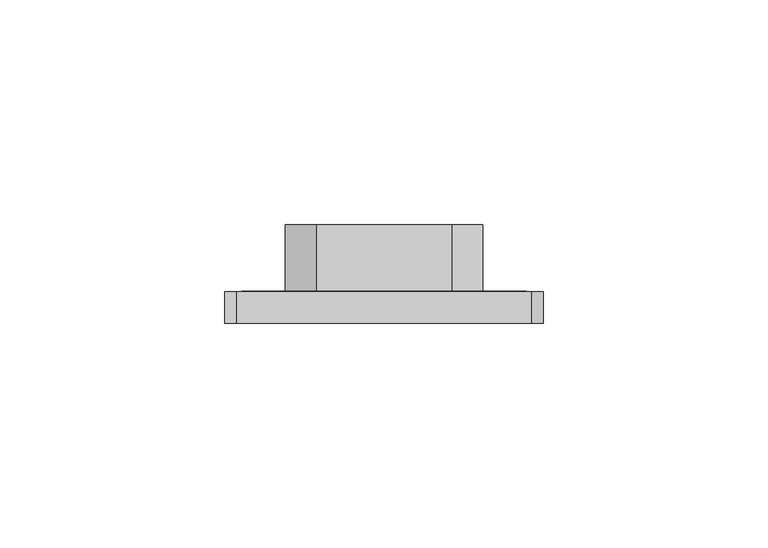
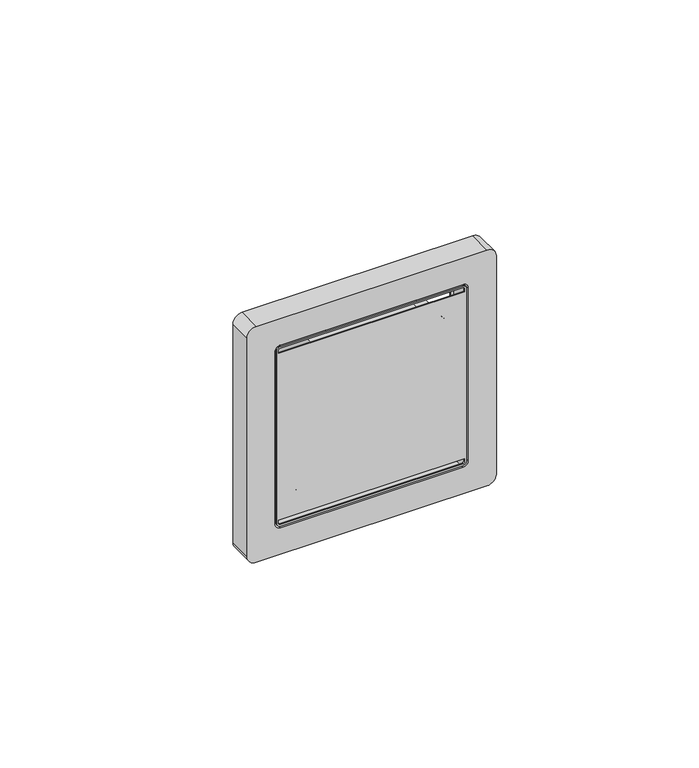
"""IFC4 building model written with IfcOpenShell, lengths in millimetres: proxy geometry, Cala KNX T 201-202 : Cala KNX T 201 Sunblind, schwarz RAL 9005."""

from ifc_helpers import new_model, si_unit, point, frame, frame_2d, origin, place, context, project, spatial, polyline, circle_curve, trimmed, segment, composite_curve, outline, extrude, source, transform, mapped, element, save


def electrical_fixtures_7aa441e9(model_context):
    return source(origin(), model_context, "Body", "SweptSolid", [
        extrude(outline(composite_curve([segment(trimmed(circle_curve(frame_2d((68.3993065, -32.8993065)), 2.6006935), [point((71.0, -32.8993065))], [point((68.3993065, -35.5))], False, "CARTESIAN"), True, "CONTINUOUS"), segment(polyline([(68.3993065, -35.5), (2.6006935, -35.5)]), True, "CONTINUOUS"), segment(trimmed(circle_curve(frame_2d((2.6006935, -32.8993065)), 2.6006935), [point((2.6006935, -35.5))], [point((0.0, -32.8993065))], False, "CARTESIAN"), True, "CONTINUOUS"), segment(polyline([(0.0, -32.8993065), (0.0, 32.8993065)]), True, "CONTINUOUS"), segment(trimmed(circle_curve(frame_2d((2.6006935, 32.8993065)), 2.6006935), [point((0.0, 32.8993065))], [point((2.6006935, 35.5))], False, "CARTESIAN"), True, "CONTINUOUS"), segment(polyline([(2.6006935, 35.5), (68.3993065, 35.5)]), True, "CONTINUOUS"), segment(trimmed(circle_curve(frame_2d((68.3993065, 32.8993065)), 2.6006935), [point((68.3993065, 35.5))], [point((71.0, 32.8993065))], False, "CARTESIAN"), True, "CONTINUOUS"), segment(polyline([(71.0, 32.8993065), (71.0, -32.8993065)]), True, "CONTINUOUS")], self_intersect=False), holes=[composite_curve([segment(polyline([(63.0, -25.9768966), (63.0, 25.9768966)]), True, "CONTINUOUS"), segment(trimmed(circle_curve(frame_2d((61.4768966, 25.9768966)), 1.5231034), [point((63.0, 25.9768966))], [point((61.4768966, 27.5))], True, "CARTESIAN"), True, "CONTINUOUS"), segment(polyline([(61.4768966, 27.5), (9.5231034, 27.5)]), True, "CONTINUOUS"), segment(trimmed(circle_curve(frame_2d((9.5231034, 25.9768966)), 1.5231034), [point((9.5231034, 27.5))], [point((8.0, 25.9768966))], True, "CARTESIAN"), True, "CONTINUOUS"), segment(polyline([(8.0, 25.9768966), (8.0, -25.9768966)]), True, "CONTINUOUS"), segment(trimmed(circle_curve(frame_2d((9.5231034, -25.9768966)), 1.5231034), [point((8.0, -25.9768966))], [point((9.5231034, -27.5))], True, "CARTESIAN"), True, "CONTINUOUS"), segment(polyline([(9.5231034, -27.5), (61.4768966, -27.5)]), True, "CONTINUOUS"), segment(trimmed(circle_curve(frame_2d((61.4768966, -25.9768966)), 1.5231034), [point((61.4768966, -27.5))], [point((63.0, -25.9768966))], True, "CARTESIAN"), True, "CONTINUOUS")], self_intersect=False)]), frame((0.0, -7.0, 0.0), z_axis=(0.0, 1.0, 0.0), x_axis=(0.0, 0.0, 1.0)), (0.0, 0.0, 1.0), 7.0),
        extrude(outline(polyline([(67.2, -27.5), (63.0, -31.7), (8.0, -31.7), (3.8, -27.5494118), (3.8, 27.5494118), (8.0, 31.7), (63.0, 31.7), (67.2, 27.5), (67.2, -27.5)]), holes=[polyline([(62.0, -22.0), (62.0, 22.0), (57.5323443, 26.5), (13.4676557, 26.5), (9.0, 22.0), (9.0, -22.0), (13.4676557, -26.5), (57.5323443, -26.5), (62.0, -22.0)])]), frame((0.0, 0.0, 0.0), z_axis=(0.0, 1.0, 0.0), x_axis=(0.0, 0.0, 1.0)), (0.0, 0.0, 1.0), 0.2),
        extrude(outline(composite_curve([segment(polyline([(20.35, 22.0), (50.65, 22.0)]), True, "CONTINUOUS"), segment(trimmed(circle_curve(frame_2d((50.65, 15.1176557)), 6.8823443), [point((50.65, 22.0))], [point((57.5323443, 15.1176557))], False, "CARTESIAN"), True, "CONTINUOUS"), segment(polyline([(57.5323443, 15.1176557), (57.5323443, -15.1176557)]), True, "CONTINUOUS"), segment(trimmed(circle_curve(frame_2d((50.65, -15.1176557)), 6.8823443), [point((57.5323443, -15.1176557))], [point((50.65, -22.0))], False, "CARTESIAN"), True, "CONTINUOUS"), segment(polyline([(50.65, -22.0), (20.35, -22.0)]), True, "CONTINUOUS"), segment(trimmed(circle_curve(frame_2d((20.35, -15.1176557)), 6.8823443), [point((20.35, -22.0))], [point((13.4676557, -15.1176557))], False, "CARTESIAN"), True, "CONTINUOUS"), segment(polyline([(13.4676557, -15.1176557), (13.4676557, 15.1176557)]), True, "CONTINUOUS"), segment(trimmed(circle_curve(frame_2d((20.35, 15.1176557)), 6.8823443), [point((13.4676557, 15.1176557))], [point((20.35, 22.0))], False, "CARTESIAN"), True, "CONTINUOUS")], self_intersect=False)), frame((0.0, -6.6, 0.0), z_axis=(0.0, 1.0, 0.0), x_axis=(0.0, 0.0, 1.0)), (0.0, 0.0, 1.0), 21.6),
        extrude(outline(composite_curve([segment(polyline([(62.5, 25.9768966), (62.5, -25.9768966)]), True, "CONTINUOUS"), segment(trimmed(circle_curve(frame_2d((61.4768966, -25.9768966)), 1.0231034), [point((62.5, -25.9768966))], [point((61.4768966, -27.0))], False, "CARTESIAN"), True, "CONTINUOUS"), segment(polyline([(61.4768966, -27.0), (9.5231034, -27.0)]), True, "CONTINUOUS"), segment(trimmed(circle_curve(frame_2d((9.5231034, -25.9768966)), 1.0231034), [point((9.5231034, -27.0))], [point((8.5, -25.9768966))], False, "CARTESIAN"), True, "CONTINUOUS"), segment(polyline([(8.5, -25.9768966), (8.5, 25.9768966)]), True, "CONTINUOUS"), segment(trimmed(circle_curve(frame_2d((9.5231034, 25.9768966)), 1.0231034), [point((8.5, 25.9768966))], [point((9.5231034, 27.0))], False, "CARTESIAN"), True, "CONTINUOUS"), segment(polyline([(9.5231034, 27.0), (61.4768966, 27.0)]), True, "CONTINUOUS"), segment(trimmed(circle_curve(frame_2d((61.4768966, 25.9768966)), 1.0231034), [point((61.4768966, 27.0))], [point((62.5, 25.9768966))], False, "CARTESIAN"), True, "CONTINUOUS")], self_intersect=False), holes=[composite_curve([segment(trimmed(circle_curve(frame_2d((61.4768966, -25.9768966)), 0.5231034), [point((61.4768966, -26.5))], [point((62.0, -25.9768966))], True, "CARTESIAN"), True, "CONTINUOUS"), segment(polyline([(62.0, -25.9768966), (62.0, 25.9768966)]), True, "CONTINUOUS"), segment(trimmed(circle_curve(frame_2d((61.4768966, 25.9768966)), 0.5231034), [point((62.0, 25.9768966))], [point((61.4768966, 26.5))], True, "CARTESIAN"), True, "CONTINUOUS"), segment(polyline([(61.4768966, 26.5), (60.65, 26.5), (60.65, -26.5), (61.4768966, -26.5)]), True, "CONTINUOUS")], self_intersect=False), composite_curve([segment(polyline([(9.0, 25.9768966), (9.0, -25.9768966)]), True, "CONTINUOUS"), segment(trimmed(circle_curve(frame_2d((9.5231034, -25.9768966)), 0.5231034), [point((9.0, -25.9768966))], [point((9.5231034, -26.5))], True, "CARTESIAN"), True, "CONTINUOUS"), segment(polyline([(9.5231034, -26.5), (10.35, -26.5), (10.35, 26.5), (9.5231034, 26.5)]), True, "CONTINUOUS"), segment(trimmed(circle_curve(frame_2d((9.5231034, 25.9768966)), 0.5231034), [point((9.5231034, 26.5))], [point((9.0, 25.9768966))], True, "CARTESIAN"), True, "CONTINUOUS")], self_intersect=False)]), frame((0.0, -7.0, 0.0), z_axis=(0.0, 1.0, 0.0), x_axis=(0.0, 0.0, 1.0)), (0.0, 0.0, 1.0), 0.4),
    ])


if __name__ == "__main__":
    model = new_model("IFC4")
    model_context = context("Model", 3, world=origin())
    ifc_project = project(units=[si_unit("LENGTHUNIT", "METRE", prefix="MILLI")], contexts=[model_context])
    site = spatial("IfcSite", under=ifc_project)
    building = spatial("IfcBuilding", under=site)
    placement = place(None, origin())
    electrical_fixtures_shape = electrical_fixtures_7aa441e9(model_context)
    element("IfcBuildingElementProxy", 1, Name="Cala KNX T 201-202 : Cala KNX T 201 Sunblind, schwarz RAL 9005", ObjectType="Cala KNX T 201-202 : Cala KNX T 201 Sunblind, schwarz RAL 9005", at=placement, inside=building, context=model_context, shape_type="MappedRepresentation", body=[
        mapped(electrical_fixtures_shape, transform((0.0, 0.0, 0.0), x_axis=(1.0, 0.0, 0.0), y_axis=(0.0, 1.0, 0.0), z_axis=(0.0, 0.0, 1.0))),
    ])
    save(model, "model.ifc")
